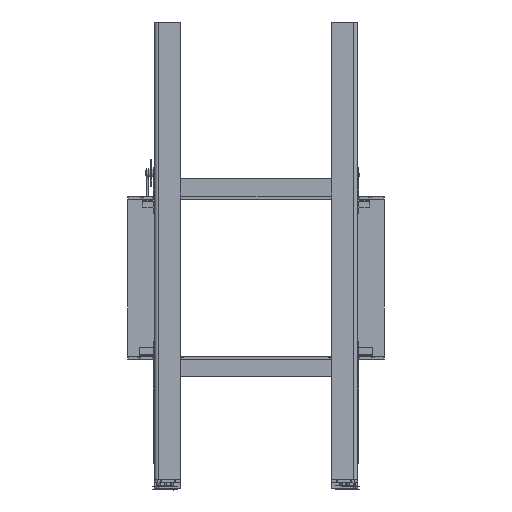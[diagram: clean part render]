
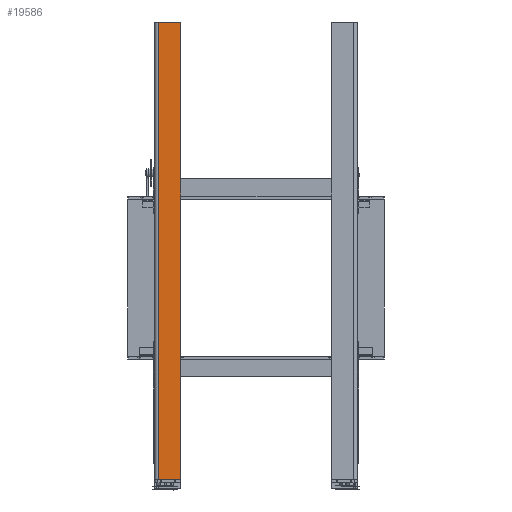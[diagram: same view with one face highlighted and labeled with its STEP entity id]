
A CAD part, front view. The second image highlights one B-rep face of the part: STEP entity #19586.
In plain terms, the highlighted planar face has unit normal (0, -1, 0).
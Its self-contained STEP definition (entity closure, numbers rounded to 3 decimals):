
#1674=LINE('',#28541,#3410);
#1779=LINE('',#28896,#3515);
#1792=LINE('',#28938,#3528);
#1795=LINE('',#28947,#3531);
#1796=LINE('',#28951,#3532);
#1797=LINE('',#28952,#3533);
#3410=VECTOR('',#22712,10.);
#3515=VECTOR('',#23047,10.);
#3528=VECTOR('',#23090,10.);
#3531=VECTOR('',#23103,10.);
#3532=VECTOR('',#23110,10.);
#3533=VECTOR('',#23111,10.);
#5248=FACE_OUTER_BOUND('',#6285,.T.);
#6285=EDGE_LOOP('',(#13528,#13529,#13530,#13531,#13532,#13533,#13534,#13535));
#7392=CIRCLE('',#20716,2.);
#7394=CIRCLE('',#20721,2.);
#8348=VERTEX_POINT('',#28527);
#8354=VERTEX_POINT('',#28539);
#8487=VERTEX_POINT('',#28889);
#8488=VERTEX_POINT('',#28891);
#8489=VERTEX_POINT('',#28895);
#8494=VERTEX_POINT('',#28909);
#8502=VERTEX_POINT('',#28935);
#8503=VERTEX_POINT('',#28937);
#10250=EDGE_CURVE('',#8354,#8348,#1674,.T.);
#10427=EDGE_CURVE('',#8488,#8487,#7392,.T.);
#10429=EDGE_CURVE('',#8489,#8488,#1779,.T.);
#10436=EDGE_CURVE('',#8494,#8489,#7394,.T.);
#10450=EDGE_CURVE('',#8503,#8502,#1792,.T.);
#10456=EDGE_CURVE('',#8487,#8503,#1795,.T.);
#10458=EDGE_CURVE('',#8348,#8502,#1796,.T.);
#10459=EDGE_CURVE('',#8494,#8354,#1797,.T.);
#13528=ORIENTED_EDGE('',*,*,#10427,.T.);
#13529=ORIENTED_EDGE('',*,*,#10456,.T.);
#13530=ORIENTED_EDGE('',*,*,#10450,.T.);
#13531=ORIENTED_EDGE('',*,*,#10458,.F.);
#13532=ORIENTED_EDGE('',*,*,#10250,.F.);
#13533=ORIENTED_EDGE('',*,*,#10459,.F.);
#13534=ORIENTED_EDGE('',*,*,#10436,.T.);
#13535=ORIENTED_EDGE('',*,*,#10429,.T.);
#19004=PLANE('',#20740);
#19586=ADVANCED_FACE('',(#5248),#19004,.T.);
#20716=AXIS2_PLACEMENT_3D('',#28892,#23042,#23043);
#20721=AXIS2_PLACEMENT_3D('',#28910,#23059,#23060);
#20740=AXIS2_PLACEMENT_3D('',#28950,#23108,#23109);
#22712=DIRECTION('',(-1.,0.,0.));
#23042=DIRECTION('center_axis',(0.,-1.,
0.));
#23043=DIRECTION('ref_axis',(0.707,0.,0.707));
#23047=DIRECTION('',(0.,0.,1.));
#23059=DIRECTION('center_axis',(0.,-1.,
0.));
#23060=DIRECTION('ref_axis',(0.707,0.,-0.707));
#23090=DIRECTION('',(0.,0.,-1.));
#23103=DIRECTION('',(-1.,0.,0.));
#23108=DIRECTION('center_axis',(0.,-1.,
0.));
#23109=DIRECTION('ref_axis',(0.,0.,
-1.));
#23110=DIRECTION('',(-1.,0.,0.));
#23111=DIRECTION('',(-1.,0.,0.));
#28527=CARTESIAN_POINT('',(-274.5,-1065.511,-803.999));
#28539=CARTESIAN_POINT('',(-232.5,-1065.511,-803.999));
#28541=CARTESIAN_POINT('',(-215.5,-1065.511,-803.999));
#28889=CARTESIAN_POINT('',(-217.5,-1065.493,508.501));
#28891=CARTESIAN_POINT('',(-215.5,-1065.493,506.501));
#28892=CARTESIAN_POINT('Origin',(-217.5,-1065.493,506.501));
#28895=CARTESIAN_POINT('',(-215.5,-1065.511,-801.999));
#28896=CARTESIAN_POINT('',(-215.5,-1065.511,-803.999));
#28909=CARTESIAN_POINT('',(-217.5,-1065.511,-803.999));
#28910=CARTESIAN_POINT('Origin',(-217.5,-1065.511,-801.999));
#28935=CARTESIAN_POINT('',(-281.25,-1065.511,-803.999));
#28937=CARTESIAN_POINT('',(-281.25,-1065.493,508.501));
#28938=CARTESIAN_POINT('',(-281.25,-1065.502,-147.749));
#28947=CARTESIAN_POINT('',(-215.5,-1065.493,508.501));
#28950=CARTESIAN_POINT('Origin',(-286.591,-1065.502,-147.749));
#28951=CARTESIAN_POINT('',(-215.5,-1065.511,-803.999));
#28952=CARTESIAN_POINT('',(-215.5,-1065.511,-803.999));
